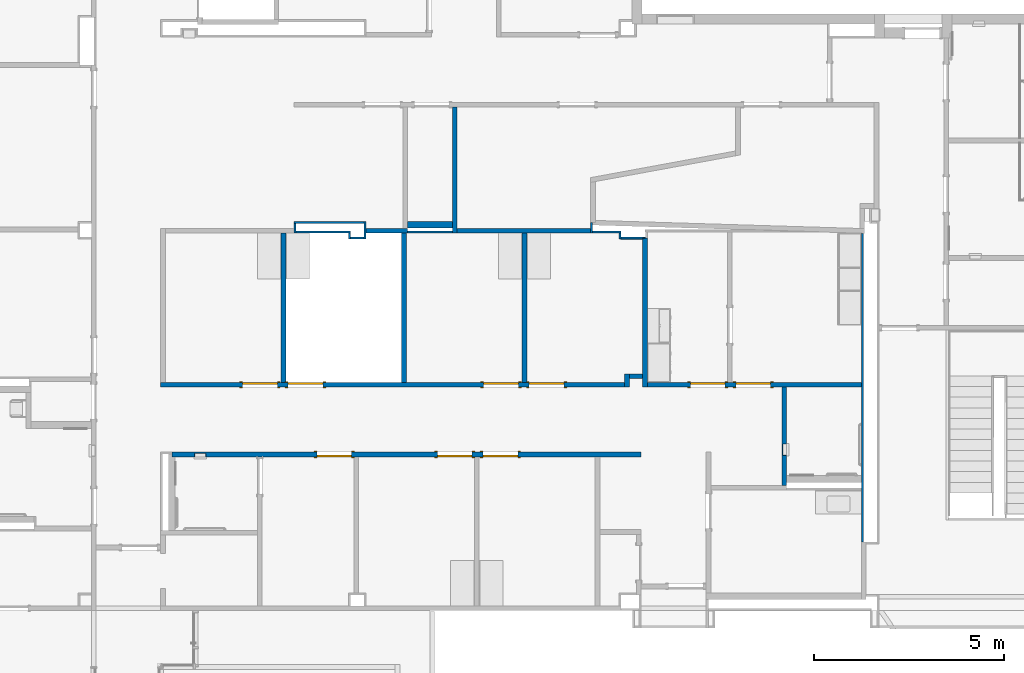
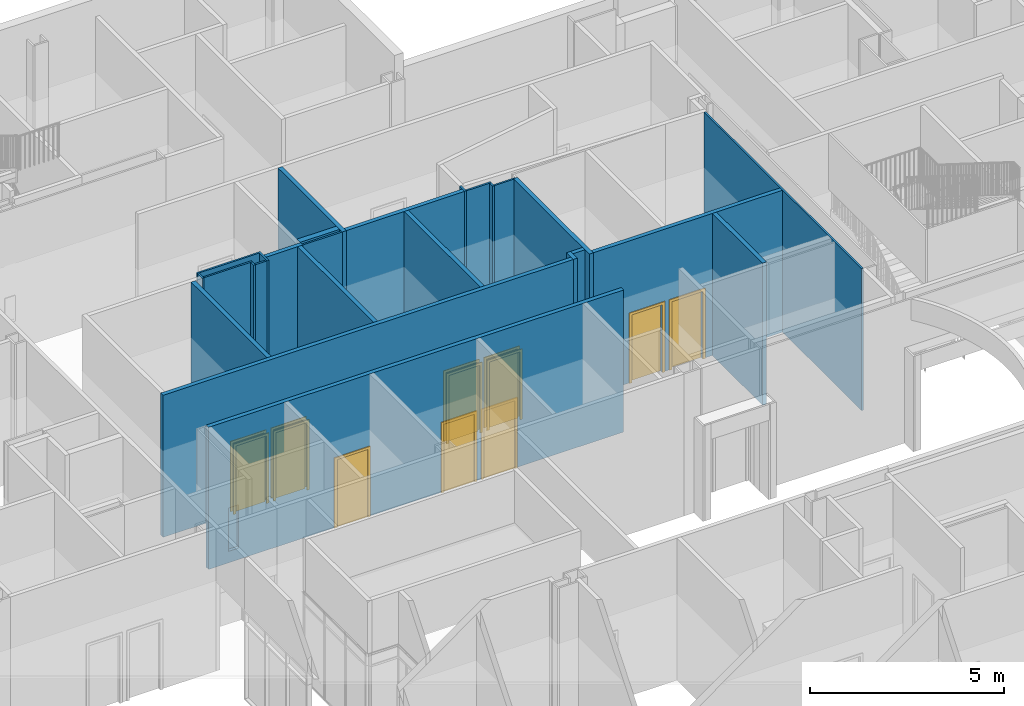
# One storey, part 33 of 87: 26 walls, 9 doors, 11 openings.
"""IFC2X3 building model written with IfcOpenShell, lengths in metres."""

from ifc_helpers import new_model, entity, si_unit, converted_unit, frame, frame_2d, origin, origin_2d_with_axis, place, context, project, spatial, polyline, rectangle, outline, extrude, source, transform, mapped, material, layer, layer_set, layer_usage, type_object, type_shapes, element, fill, save


model = new_model("IFC2X3")

# Units and contexts
model_context = context("Model", 3, precision=1e-09, world=origin())
plan_context = context("Plan", 3, precision=1e-09, world=origin())
ifc_project = project(units=[si_unit("LENGTHUNIT", "METRE"), si_unit("AREAUNIT", "SQUARE_METRE"), si_unit("VOLUMEUNIT", "CUBIC_METRE"), converted_unit("PLANEANGLEUNIT", "DEGREE", entity("IfcRatioMeasure", 0.01745329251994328), si_unit("PLANEANGLEUNIT", "RADIAN"), dimensions=[0, 0, 0, 0, 0, 0, 0]), si_unit("TIMEUNIT", "SECOND")], contexts=[model_context, plan_context])

# Site, building, storey
site_placement = place(None, origin())
site = spatial("IfcSite", under=ifc_project, at=site_placement, Name="Default", CompositionType="ELEMENT")
building_placement = place(site_placement, origin())
building = spatial("IfcBuilding", under=site, at=building_placement, CompositionType="ELEMENT")
storey_placement = place(building_placement, origin())
storey = spatial("IfcBuildingStorey", under=building, at=storey_placement, Name="First Floor", CompositionType="ELEMENT", Elevation=-3.531500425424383e-13)

# Wall, opening
ifc_material_1 = material(Name="Plasterboard")
ifc_layer_1 = layer(ifc_material_1, 0.016)
ifc_material_2 = material(Name="Metal - Stud Layer")
ifc_layer_2 = layer(ifc_material_2, 0.092)
ifc_layer_3 = layer(ifc_material_1, 0.016)
ifc_layer_set_1 = layer_set([ifc_layer_1, ifc_layer_2, ifc_layer_3], Name="Basic Wall:Interior - Partition (92mm Stud)")
ifc_layer_usage_1 = layer_usage(ifc_layer_set_1, "AXIS2", "NEGATIVE", 0.062)
wall_1_placement = place(storey_placement, frame((-22.31800000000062, 38.07399999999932, 0.0), z_axis=(0.0, 0.0, 1.0), x_axis=(0.0, 1.0, 0.0)))
wall_1 = element("IfcWallStandardCase", 1, at=wall_1_placement, inside=storey, material=ifc_layer_usage_1, Name="Basic Wall:Interior - Partition (92mm Stud)", ObjectType="Basic Wall:Interior - Partition (92mm Stud)", context=model_context, shape_type="SweptSolid", body=[
    extrude(rectangle(XDim=2.58600000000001, YDim=0.1239999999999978, at=frame_2d((1.293000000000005, 0.0), x_axis=(-1.0, 0.0))), origin(), (0.0, 0.0, 1.0), 4.46800000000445),
])
opening_1_placement = place(wall_1_placement, origin())
element("IfcOpeningElement", 2, at=opening_1_placement, cuts=wall_1, ObjectType="Opening", context=model_context, shape_type="SweptSolid", body=[
    extrude(rectangle(XDim=1.362075, YDim=0.2984499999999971, at=origin_2d_with_axis()), frame((0.9411000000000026, -0.1255000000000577, 1.041399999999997), z_axis=(0.0, 1.0, 0.0), x_axis=(0.0, 0.0, -1.0)), (0.0, 0.0, 1.0), 0.1524000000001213),
])

# Wall, openings, doors
ifc_layer_usage_2 = layer_usage(ifc_layer_set_1, "AXIS2", "NEGATIVE", 0.062)
wall_2_placement = place(storey_placement, frame((-20.2900000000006, 40.72199999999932, 0.0), z_axis=(0.0, 0.0, 1.0), x_axis=(-1.0, 0.0, 0.0)))
wall_2 = element("IfcWallStandardCase", 3, at=wall_2_placement, inside=storey, material=ifc_layer_usage_2, Name="Basic Wall:Interior - Partition (92mm Stud)", ObjectType="Basic Wall:Interior - Partition (92mm Stud)", context=model_context, shape_type="SweptSolid", body=[
    extrude(rectangle(XDim=5.626000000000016, YDim=0.1240000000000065, at=frame_2d((2.813000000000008, 0.0), x_axis=(-1.0, 0.0))), origin(), (0.0, 0.0, 1.0), 4.468000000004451),
])
opening_2_placement = place(wall_2_placement, frame((3.300000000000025, 0.06199999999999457, 0.0)))
opening_2 = element("IfcOpeningElement", 4, at=opening_2_placement, cuts=wall_2, Name="M_Single-Flush:0915 x 2134mm:0915 x 2134mm:1", ObjectType="Opening", context=model_context, shape_type="SweptSolid", body=[
    extrude(rectangle(XDim=0.9149999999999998, YDim=2.134, at=frame_2d((1.067, 0.4574999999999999), x_axis=(0.0, -1.0))), frame((0.0, 0.0, 0.0), z_axis=(0.0, -1.0, 0.0), x_axis=(0.0, 0.0, 1.0)), (0.0, 0.0, 1.0), 0.124),
])
opening_3_placement = place(wall_2_placement, frame((4.499000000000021, 0.06199999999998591, 0.0)))
opening_3 = element("IfcOpeningElement", 5, at=opening_3_placement, cuts=wall_2, Name="M_Single-Flush:0915 x 2134mm:0915 x 2134mm:1", ObjectType="Opening", context=model_context, shape_type="SweptSolid", body=[
    extrude(rectangle(XDim=0.9149999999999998, YDim=2.134, at=frame_2d((1.067, 0.4575), x_axis=(0.0, 1.0))), frame((0.0, 0.0, 0.0), z_axis=(0.0, -1.0, 0.0), x_axis=(0.0, 0.0, 1.0)), (0.0, 0.0, 1.0), 0.124),
])
door_style_1 = type_object("IfcDoorStyle", Name="0915 x 2134mm", ConstructionType="NOTDEFINED", OperationType="SINGLE_SWING_RIGHT", ParameterTakesPrecedence=False, Sizeable=False)
shared_shape_1 = source(origin(), model_context, "Body", "SweptSolid", [
    extrude(outline(polyline([(-0.5335, -1.123999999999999), (0.5334999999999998, -1.123999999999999), (0.5334999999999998, 1.086), (0.4574999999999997, 1.086), (0.4574999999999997, -1.048000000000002), (-0.4574999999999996, -1.048000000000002), (-0.4574999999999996, 1.086), (-0.5335, 1.086), (-0.5335, -1.123999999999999)])), frame((0.4575000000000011, 0.1239999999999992, 1.086), z_axis=(0.0, 1.0, 0.0), x_axis=(1.0, 0.0, 0.0)), (0.0, 0.0, 1.0), 0.02499999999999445),
    extrude(outline(polyline([(-1.123999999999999, -0.5334999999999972), (1.085999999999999, -0.5334999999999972), (1.085999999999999, -0.4575000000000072), (-1.048, -0.4575000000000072), (-1.048, 0.4575000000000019), (1.085999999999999, 0.4575000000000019), (1.085999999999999, 0.5335000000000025), (-1.123999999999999, 0.5335000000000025), (-1.123999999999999, -0.5334999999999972)])), frame((0.4575000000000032, -0.02500000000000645, 1.085999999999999), z_axis=(0.0, 1.0, 0.0), x_axis=(0.0, 0.0, -1.0)), (0.0, 0.0, 1.0), 0.02500000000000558),
    extrude(rectangle(XDim=0.051, YDim=0.9149999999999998, at=origin_2d_with_axis()), frame((0.4575000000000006, 0.09849999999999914, 0.0), z_axis=(0.0, 0.0, 1.0), x_axis=(0.0, 1.0, 0.0)), (0.0, 0.0, 1.0), 2.133999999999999),
])
type_shapes(door_style_1, [shared_shape_1])
door_1_placement = place(opening_3_placement, frame((0.0, 0.0, 0.0), z_axis=(0.0, 0.0, 1.0), x_axis=(-1.0, 0.0, 0.0)))
door_1 = element("IfcDoor", 6, at=door_1_placement, inside=storey, type_object=door_style_1, Name="M_Single-Flush:0915 x 2134mm:0915 x 2134mm", ObjectType="0915 x 2134mm", OverallHeight=2.134, OverallWidth=0.9149999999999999, context=model_context, shape_type="MappedRepresentation", body=[
    mapped(shared_shape_1, transform((0.0, 0.0, 0.0), scale=1.0)),
])
fill(opening_3, door_1)
door_style_2 = type_object("IfcDoorStyle", Name="0915 x 2134mm", ConstructionType="NOTDEFINED", OperationType="SINGLE_SWING_LEFT", ParameterTakesPrecedence=False, Sizeable=False)
shared_shape_2 = source(origin(), model_context, "Body", "SweptSolid", [
    extrude(outline(polyline([(-0.5335, -1.123999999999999), (0.5334999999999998, -1.123999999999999), (0.5334999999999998, 1.086), (0.4574999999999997, 1.086), (0.4574999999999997, -1.048000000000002), (-0.4574999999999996, -1.048000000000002), (-0.4574999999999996, 1.086), (-0.5335, 1.086), (-0.5335, -1.123999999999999)])), frame((0.4575000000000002, 0.1489999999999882, 1.086), z_axis=(0.0, -1.0, 0.0), x_axis=(-1.0, 0.0, 0.0)), (0.0, 0.0, 1.0), 0.02499999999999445),
    extrude(outline(polyline([(-1.123999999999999, -0.5334999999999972), (1.085999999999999, -0.5334999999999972), (1.085999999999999, -0.4575000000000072), (-1.048, -0.4575000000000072), (-1.048, 0.4575000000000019), (1.085999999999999, 0.4575000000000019), (1.085999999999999, 0.5335000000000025), (-1.123999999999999, 0.5335000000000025), (-1.123999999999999, -0.5334999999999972)])), frame((0.4574999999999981, 0.0, 1.085999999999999), z_axis=(0.0, -1.0, 0.0), x_axis=(0.0, 0.0, -1.0)), (0.0, 0.0, 1.0), 0.02500000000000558),
    extrude(rectangle(XDim=0.9149999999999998, YDim=0.051, at=origin_2d_with_axis()), frame((0.4575000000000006, 0.09849999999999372, 0.0)), (0.0, 0.0, 1.0), 2.133999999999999),
])
type_shapes(door_style_2, [shared_shape_2])
door_2_placement = place(opening_2_placement, frame((0.0, 0.0, 0.0), z_axis=(0.0, 0.0, 1.0), x_axis=(-1.0, 0.0, 0.0)))
door_2 = element("IfcDoor", 7, at=door_2_placement, inside=storey, type_object=door_style_2, Name="M_Single-Flush:0915 x 2134mm:0915 x 2134mm", ObjectType="0915 x 2134mm", OverallHeight=2.134, OverallWidth=0.9149999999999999, context=model_context, shape_type="MappedRepresentation", body=[
    mapped(shared_shape_2, transform((0.0, 0.0, 0.0), scale=1.0)),
])
fill(opening_2, door_2)

# Walls
ifc_layer_usage_3 = layer_usage(ifc_layer_set_1, "AXIS2", "NEGATIVE", 0.062)
wall_3_placement = place(storey_placement, frame((-35.48800000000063, 40.78399999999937, 0.0), z_axis=(0.0, 0.0, 1.0), x_axis=(0.0, 1.0, 0.0)))
element("IfcWallStandardCase", 8, at=wall_3_placement, inside=storey, material=ifc_layer_usage_3, Name="Basic Wall:Interior - Partition (92mm Stud)", ObjectType="Basic Wall:Interior - Partition (92mm Stud)", context=model_context, shape_type="SweptSolid", body=[
    extrude(rectangle(XDim=3.921999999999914, YDim=0.1239999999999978, at=frame_2d((1.960999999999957, 0.0), x_axis=(-1.0, 0.0))), origin(), (0.0, 0.0, 1.0), 4.46800000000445),
])
ifc_layer_usage_4 = layer_usage(ifc_layer_set_1, "AXIS2", "NEGATIVE", 0.062)
wall_4_placement = place(storey_placement, frame((-32.31800000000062, 40.78399999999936, 0.0), z_axis=(0.0, 0.0, 1.0), x_axis=(0.0, 1.0, 0.0)))
element("IfcWallStandardCase", 9, at=wall_4_placement, inside=storey, material=ifc_layer_usage_4, Name="Basic Wall:Interior - Partition (92mm Stud)", ObjectType="Basic Wall:Interior - Partition (92mm Stud)", context=model_context, shape_type="SweptSolid", body=[
    extrude(rectangle(XDim=3.921999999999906, YDim=0.1239999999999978, at=frame_2d((1.960999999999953, 0.0), x_axis=(-1.0, 0.0))), origin(), (0.0, 0.0, 1.0), 4.46800000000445),
])
ifc_layer_usage_5 = layer_usage(ifc_layer_set_1, "AXIS2", "NEGATIVE", 0.062)
wall_5_placement = place(storey_placement, frame((-33.32000000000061, 44.76799999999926, 0.0)))
element("IfcWallStandardCase", 10, at=wall_5_placement, inside=storey, material=ifc_layer_usage_5, Name="Basic Wall:Interior - Partition (92mm Stud)", ObjectType="Basic Wall:Interior - Partition (92mm Stud)", context=model_context, shape_type="SweptSolid", body=[
    extrude(rectangle(XDim=1.094999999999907, YDim=0.1240000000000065, at=frame_2d((0.5474999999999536, 0.0), x_axis=(-1.0, 0.0))), origin(), (0.0, 0.0, 1.0), 4.468000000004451),
])
ifc_layer_usage_6 = layer_usage(ifc_layer_set_1, "AXIS2", "NEGATIVE", 0.062)
wall_6_placement = place(storey_placement, frame((-29.14800000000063, 40.78399999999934, 0.0), z_axis=(0.0, 0.0, 1.0), x_axis=(0.0, 1.0, 0.0)))
element("IfcWallStandardCase", 11, at=wall_6_placement, inside=storey, material=ifc_layer_usage_6, Name="Basic Wall:Interior - Partition (92mm Stud)", ObjectType="Basic Wall:Interior - Partition (92mm Stud)", context=model_context, shape_type="SweptSolid", body=[
    extrude(rectangle(XDim=3.921999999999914, YDim=0.1239999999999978, at=frame_2d((1.960999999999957, 0.0), x_axis=(-1.0, 0.0))), origin(), (0.0, 0.0, 1.0), 4.46800000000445),
])

# Wall, openings, doors
ifc_layer_usage_7 = layer_usage(ifc_layer_set_1, "AXIS2", "NEGATIVE", 0.062)
wall_7_placement = place(storey_placement, frame((-26.51400084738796, 40.72199999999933, 0.0), z_axis=(0.0, 0.0, 1.0), x_axis=(-1.0, 0.0, 0.0)))
wall_7 = element("IfcWallStandardCase", 12, at=wall_7_placement, inside=storey, material=ifc_layer_usage_7, Name="Basic Wall:Interior - Partition (92mm Stud)", ObjectType="Basic Wall:Interior - Partition (92mm Stud)", context=model_context, shape_type="SweptSolid", body=[
    extrude(rectangle(XDim=12.20599915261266, YDim=0.1240000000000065, at=frame_2d((6.102999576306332, 0.0), x_axis=(-1.0, 0.0))), origin(), (0.0, 0.0, 1.0), 4.46800000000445),
])
opening_4_placement = place(wall_7_placement, frame((2.511999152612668, 0.06199999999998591, 0.0)))
opening_4 = element("IfcOpeningElement", 13, at=opening_4_placement, cuts=wall_7, Name="M_Single-Flush:0915 x 2134mm:0915 x 2134mm:1", ObjectType="Opening", context=model_context, shape_type="SweptSolid", body=[
    extrude(rectangle(XDim=0.9149999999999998, YDim=2.134, at=frame_2d((1.067, 0.4574999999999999), x_axis=(0.0, -1.0))), frame((0.0, 0.0, 0.0), z_axis=(0.0, -1.0, 0.0), x_axis=(0.0, 0.0, 1.0)), (0.0, 0.0, 1.0), 0.124),
])
opening_5_placement = place(wall_7_placement, frame((3.710999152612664, 0.06199999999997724, 0.0)))
opening_5 = element("IfcOpeningElement", 14, at=opening_5_placement, cuts=wall_7, Name="M_Single-Flush:0915 x 2134mm:0915 x 2134mm:1", ObjectType="Opening", context=model_context, shape_type="SweptSolid", body=[
    extrude(rectangle(XDim=0.9149999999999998, YDim=2.134, at=frame_2d((1.067, 0.4575), x_axis=(0.0, 1.0))), frame((0.0, 0.0, 0.0), z_axis=(0.0, -1.0, 0.0), x_axis=(0.0, 0.0, 1.0)), (0.0, 0.0, 1.0), 0.124),
])
opening_6_placement = place(wall_7_placement, frame((10.05099915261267, 0.06199999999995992, 0.0)))
opening_6 = element("IfcOpeningElement", 15, at=opening_6_placement, cuts=wall_7, Name="M_Single-Flush:0915 x 2134mm:0915 x 2134mm:1", ObjectType="Opening", context=model_context, shape_type="SweptSolid", body=[
    extrude(rectangle(XDim=0.9149999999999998, YDim=2.134, at=frame_2d((1.067, 0.4575), x_axis=(0.0, 1.0))), frame((0.0, 0.0, 0.0), z_axis=(0.0, -1.0, 0.0), x_axis=(0.0, 0.0, 1.0)), (0.0, 0.0, 1.0), 0.124),
])
opening_7_placement = place(wall_7_placement, frame((8.851999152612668, 0.06199999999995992, 0.0)))
opening_7 = element("IfcOpeningElement", 16, at=opening_7_placement, cuts=wall_7, Name="M_Single-Flush:0915 x 2134mm:0915 x 2134mm:1", ObjectType="Opening", context=model_context, shape_type="SweptSolid", body=[
    extrude(rectangle(XDim=0.9149999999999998, YDim=2.134, at=frame_2d((1.067, 0.4574999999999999), x_axis=(0.0, -1.0))), frame((0.0, 0.0, 0.0), z_axis=(0.0, -1.0, 0.0), x_axis=(0.0, 0.0, 1.0)), (0.0, 0.0, 1.0), 0.124),
])
door_3_placement = place(opening_5_placement, frame((0.0, 0.0, 0.0), z_axis=(0.0, 0.0, 1.0), x_axis=(-1.0, 0.0, 0.0)))
door_3 = element("IfcDoor", 17, at=door_3_placement, inside=storey, type_object=door_style_1, Name="M_Single-Flush:0915 x 2134mm:0915 x 2134mm", ObjectType="0915 x 2134mm", OverallHeight=2.134, OverallWidth=0.9149999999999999, context=model_context, shape_type="MappedRepresentation", body=[
    mapped(shared_shape_1, transform((0.0, 0.0, 0.0), scale=1.0)),
])
fill(opening_5, door_3)
door_4_placement = place(opening_6_placement, frame((0.0, 0.0, 0.0), z_axis=(0.0, 0.0, 1.0), x_axis=(-1.0, 0.0, 0.0)))
door_4 = element("IfcDoor", 18, at=door_4_placement, inside=storey, type_object=door_style_1, Name="M_Single-Flush:0915 x 2134mm:0915 x 2134mm", ObjectType="0915 x 2134mm", OverallHeight=2.134, OverallWidth=0.9149999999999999, context=model_context, shape_type="MappedRepresentation", body=[
    mapped(shared_shape_1, transform((0.0, 0.0, 0.0), scale=1.0)),
])
fill(opening_6, door_4)
door_5_placement = place(opening_4_placement, frame((0.0, 0.0, 0.0), z_axis=(0.0, 0.0, 1.0), x_axis=(-1.0, 0.0, 0.0)))
door_5 = element("IfcDoor", 19, at=door_5_placement, inside=storey, type_object=door_style_2, Name="M_Single-Flush:0915 x 2134mm:0915 x 2134mm", ObjectType="0915 x 2134mm", OverallHeight=2.134, OverallWidth=0.9149999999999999, context=model_context, shape_type="MappedRepresentation", body=[
    mapped(shared_shape_2, transform((0.0, 0.0, 0.0), scale=1.0)),
])
fill(opening_4, door_5)
door_6_placement = place(opening_7_placement, frame((0.0, 0.0, 0.0), z_axis=(0.0, 0.0, 1.0), x_axis=(-1.0, 0.0, 0.0)))
door_6 = element("IfcDoor", 20, at=door_6_placement, inside=storey, type_object=door_style_2, Name="M_Single-Flush:0915 x 2134mm:0915 x 2134mm", ObjectType="0915 x 2134mm", OverallHeight=2.134, OverallWidth=0.9149999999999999, context=model_context, shape_type="MappedRepresentation", body=[
    mapped(shared_shape_2, transform((0.0, 0.0, 0.0), scale=1.0)),
])
fill(opening_7, door_6)

# Walls
ifc_layer_usage_8 = layer_usage(ifc_layer_set_1, "AXIS2", "NEGATIVE", 0.062)
wall_8_placement = place(storey_placement, frame((-25.97800000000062, 40.65999999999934, 0.0), z_axis=(0.0, 0.0, 1.0), x_axis=(0.0, 1.0, 0.0)))
element("IfcWallStandardCase", 21, at=wall_8_placement, inside=storey, material=ifc_layer_usage_8, Name="Basic Wall:Interior - Partition (92mm Stud)", ObjectType="Basic Wall:Interior - Partition (92mm Stud)", context=model_context, shape_type="SweptSolid", body=[
    extrude(rectangle(XDim=3.916999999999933, YDim=0.1239999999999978, at=frame_2d((1.958499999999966, 0.0), x_axis=(-1.0, 0.0))), origin(), (0.0, 0.0, 1.0), 4.46800000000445),
])
ifc_layer_usage_9 = layer_usage(ifc_layer_set_1, "AXIS2", "NEGATIVE", 0.062)
wall_9_placement = place(storey_placement, frame((-26.04000000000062, 40.94699955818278, 0.0), z_axis=(0.0, 0.0, 1.0), x_axis=(-1.0, 0.0, 0.0)))
element("IfcWallStandardCase", 22, at=wall_9_placement, inside=storey, material=ifc_layer_usage_9, Name="Basic Wall:Interior - Partition (92mm Stud)", ObjectType="Basic Wall:Interior - Partition (92mm Stud)", context=model_context, shape_type="SweptSolid", body=[
    extrude(rectangle(XDim=0.3500008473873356, YDim=0.1240000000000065, at=frame_2d((0.1750004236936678, 0.0), x_axis=(-1.0, 0.0))), origin(), (0.0, 0.0, 1.0), 4.46800000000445),
])
ifc_layer_usage_10 = layer_usage(ifc_layer_set_1, "AXIS2", "NEGATIVE", 0.062)
wall_10_placement = place(storey_placement, frame((-26.45200084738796, 41.00899955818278, 0.0), z_axis=(0.0, 0.0, 1.0), x_axis=(0.0, -1.0, 0.0)))
element("IfcWallStandardCase", 23, at=wall_10_placement, inside=storey, material=ifc_layer_usage_10, Name="Basic Wall:Interior - Partition (92mm Stud)", ObjectType="Basic Wall:Interior - Partition (92mm Stud)", context=model_context, shape_type="SweptSolid", body=[
    extrude(rectangle(XDim=0.3489995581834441, YDim=0.1239999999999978, at=frame_2d((0.1744997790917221, 0.0), x_axis=(-1.0, 0.0))), origin(), (0.0, 0.0, 1.0), 4.468000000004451),
])

# Wall, openings, doors
ifc_layer_usage_11 = layer_usage(ifc_layer_set_1, "AXIS2", "NEGATIVE", 0.062)
wall_11_placement = place(storey_placement, frame((-38.42400000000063, 38.88799999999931, 0.0)))
wall_11 = element("IfcWallStandardCase", 24, at=wall_11_placement, inside=storey, material=ifc_layer_usage_11, Name="Basic Wall:Interior - Partition (92mm Stud)", ObjectType="Basic Wall:Interior - Partition (92mm Stud)", context=model_context, shape_type="SweptSolid", body=[
    extrude(rectangle(XDim=12.344, YDim=0.1239999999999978, at=frame_2d((6.172000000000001, 0.0), x_axis=(-1.0, 0.0))), origin(), (0.0, 0.0, 1.0), 4.46800000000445),
])
opening_8_placement = place(wall_11_placement, origin())
element("IfcOpeningElement", 25, at=opening_8_placement, cuts=wall_11, ObjectType="Opening", context=model_context, shape_type="SweptSolid", body=[
    extrude(rectangle(XDim=1.362075, YDim=0.2984500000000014, at=origin_2d_with_axis()), frame((0.7491000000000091, -0.1255000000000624, 1.041399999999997), z_axis=(0.0, 1.0, 0.0), x_axis=(0.0, 0.0, -1.0)), (0.0, 0.0, 1.0), 0.1524000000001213),
])
opening_9_placement = place(wall_11_placement, frame((4.729999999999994, 0.06199999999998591, 0.0)))
opening_9 = element("IfcOpeningElement", 26, at=opening_9_placement, cuts=wall_11, Name="M_Single-Flush:0915 x 2134mm:0915 x 2134mm:1", ObjectType="Opening", context=model_context, shape_type="SweptSolid", body=[
    extrude(rectangle(XDim=0.9149999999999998, YDim=2.134, at=frame_2d((1.067, 0.4574999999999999), x_axis=(0.0, -1.0))), frame((0.0, 0.0, 0.0), z_axis=(0.0, -1.0, 0.0), x_axis=(0.0, 0.0, 1.0)), (0.0, 0.0, 1.0), 0.124),
])
opening_10_placement = place(wall_11_placement, frame((7.899999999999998, 0.06199999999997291, 0.0)))
opening_10 = element("IfcOpeningElement", 27, at=opening_10_placement, cuts=wall_11, Name="M_Single-Flush:0915 x 2134mm:0915 x 2134mm:1", ObjectType="Opening", context=model_context, shape_type="SweptSolid", body=[
    extrude(rectangle(XDim=0.9149999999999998, YDim=2.134, at=frame_2d((1.067, 0.4574999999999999), x_axis=(0.0, -1.0))), frame((0.0, 0.0, 0.0), z_axis=(0.0, -1.0, 0.0), x_axis=(0.0, 0.0, 1.0)), (0.0, 0.0, 1.0), 0.124),
])
opening_11_placement = place(wall_11_placement, frame((9.099000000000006, 0.06199999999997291, 0.0)))
opening_11 = element("IfcOpeningElement", 28, at=opening_11_placement, cuts=wall_11, Name="M_Single-Flush:0915 x 2134mm:0915 x 2134mm:1", ObjectType="Opening", context=model_context, shape_type="SweptSolid", body=[
    extrude(rectangle(XDim=0.9149999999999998, YDim=2.134, at=frame_2d((1.067, 0.4575), x_axis=(0.0, 1.0))), frame((0.0, 0.0, 0.0), z_axis=(0.0, -1.0, 0.0), x_axis=(0.0, 0.0, 1.0)), (0.0, 0.0, 1.0), 0.124),
])
door_7_placement = place(opening_11_placement, frame((0.0, 0.0, 0.0), z_axis=(0.0, 0.0, 1.0), x_axis=(-1.0, 0.0, 0.0)))
door_7 = element("IfcDoor", 29, at=door_7_placement, inside=storey, type_object=door_style_1, Name="M_Single-Flush:0915 x 2134mm:0915 x 2134mm", ObjectType="0915 x 2134mm", OverallHeight=2.134, OverallWidth=0.9149999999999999, context=model_context, shape_type="MappedRepresentation", body=[
    mapped(shared_shape_1, transform((0.0, 0.0, 0.0), scale=1.0)),
])
fill(opening_11, door_7)
door_8_placement = place(opening_9_placement, frame((0.0, 0.0, 0.0), z_axis=(0.0, 0.0, 1.0), x_axis=(-1.0, 0.0, 0.0)))
door_8 = element("IfcDoor", 30, at=door_8_placement, inside=storey, type_object=door_style_2, Name="M_Single-Flush:0915 x 2134mm:0915 x 2134mm", ObjectType="0915 x 2134mm", OverallHeight=2.134, OverallWidth=0.9149999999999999, context=model_context, shape_type="MappedRepresentation", body=[
    mapped(shared_shape_2, transform((0.0, 0.0, 0.0), scale=1.0)),
])
fill(opening_9, door_8)
door_9_placement = place(opening_10_placement, frame((0.0, 0.0, 0.0), z_axis=(0.0, 0.0, 1.0), x_axis=(-1.0, 0.0, 0.0)))
door_9 = element("IfcDoor", 31, at=door_9_placement, inside=storey, type_object=door_style_2, Name="M_Single-Flush:0915 x 2134mm:0915 x 2134mm", ObjectType="0915 x 2134mm", OverallHeight=2.134, OverallWidth=0.9149999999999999, context=model_context, shape_type="MappedRepresentation", body=[
    mapped(shared_shape_2, transform((0.0, 0.0, 0.0), scale=1.0)),
])
fill(opening_10, door_9)

# Walls
ifc_layer_usage_12 = layer_usage(ifc_layer_set_1, "AXIS2", "NEGATIVE", 0.062)
wall_12_placement = place(storey_placement, frame((-30.98700000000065, 48.02599999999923, 0.0), z_axis=(0.0, 0.0, 1.0), x_axis=(0.0, -1.0, 0.0)))
element("IfcWallStandardCase", 32, at=wall_12_placement, inside=storey, material=ifc_layer_usage_12, Name="Basic Wall:Interior - Partition (92mm Stud)", ObjectType="Basic Wall:Interior - Partition (92mm Stud)", context=model_context, shape_type="SweptSolid", body=[
    extrude(rectangle(XDim=3.319999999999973, YDim=0.1239999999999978, at=frame_2d((1.659999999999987, 0.0), x_axis=(-1.0, 0.0))), origin(), (0.0, 0.0, 1.0), 4.468000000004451),
])
ifc_layer_4 = layer(ifc_material_2, 0.152)
ifc_layer_5 = layer(ifc_material_1, 0.016)
ifc_layer_set_2 = layer_set([ifc_layer_4, ifc_layer_5], Name="Basic Wall:Interior - Furring (152 mm Stud)")
ifc_layer_usage_13 = layer_usage(ifc_layer_set_2, "AXIS2", "POSITIVE", -0.08399999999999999)
wall_13_placement = place(storey_placement, frame((-32.22500000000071, 44.92599999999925, 0.0)))
element("IfcWallStandardCase", 33, at=wall_13_placement, inside=storey, material=ifc_layer_usage_13, Name="Basic Wall:Interior - Furring (152 mm Stud)", ObjectType="Basic Wall:Interior - Furring (152 mm Stud)", context=model_context, shape_type="SweptSolid", body=[
    extrude(rectangle(XDim=1.176000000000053, YDim=0.1679999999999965, at=frame_2d((0.5880000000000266, 0.0), x_axis=(-1.0, 0.0))), origin(), (0.0, 0.0, 1.0), 4.46800000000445),
])
ifc_layer_6 = layer(ifc_material_2, 0.038)
ifc_layer_7 = layer(ifc_material_1, 0.016)
ifc_layer_set_3 = layer_set([ifc_layer_6, ifc_layer_7], Name="Basic Wall:Interior - Furring (38 mm Stud)")
ifc_layer_usage_14 = layer_usage(ifc_layer_set_3, "AXIS2", "NEGATIVE", 0.027)
wall_14_placement = place(storey_placement, frame((-20.26300000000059, 44.70594269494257, 0.0), z_axis=(0.0, 0.0, 1.0), x_axis=(0.0, -1.0, 0.0)))
element("IfcWallStandardCase", 34, at=wall_14_placement, inside=storey, material=ifc_layer_usage_14, Name="Basic Wall:Interior - Furring (38 mm Stud)", ObjectType="Basic Wall:Interior - Furring (38 mm Stud)", context=model_context, shape_type="SweptSolid", body=[
    extrude(outline(polyline([(8.116942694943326, -0.02700000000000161), (8.116942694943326, 0.02699999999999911), (0.001641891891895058, 0.0269999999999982), (0.0, -0.02700000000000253), (3.921942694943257, -0.02700000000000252), (4.045942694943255, -0.02700000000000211), (6.375942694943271, -0.02700000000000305), (6.559942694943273, -0.02700000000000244), (6.701942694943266, -0.02700000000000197), (6.755942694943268, -0.02700000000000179), (8.116942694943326, -0.02700000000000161)])), origin(), (0.0, 0.0, 1.0), 4.46800000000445),
])
ifc_layer_usage_15 = layer_usage(ifc_layer_set_3, "AXIS2", "NEGATIVE", 0.027)
wall_15_placement = place(storey_placement, frame((-27.38200000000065, 44.98360648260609, 0.0), z_axis=(0.0, 0.0, 1.0), x_axis=(0.0, -1.0, 0.0)))
element("IfcWallStandardCase", 35, at=wall_15_placement, inside=storey, material=ifc_layer_usage_15, Name="Basic Wall:Interior - Furring (38 mm Stud)", ObjectType="Basic Wall:Interior - Furring (38 mm Stud)", context=model_context, shape_type="SweptSolid", body=[
    extrude(rectangle(XDim=0.277606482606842, YDim=0.05399999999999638, at=frame_2d((0.138803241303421, 0.0), x_axis=(-1.0, 0.0))), origin(), (0.0, 0.0, 1.0), 4.468000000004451),
])
ifc_layer_usage_16 = layer_usage(ifc_layer_set_3, "AXIS2", "NEGATIVE", 0.027)
wall_16_placement = place(storey_placement, frame((-27.35500000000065, 44.73299999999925, 0.0)))
element("IfcWallStandardCase", 36, at=wall_16_placement, inside=storey, material=ifc_layer_usage_16, Name="Basic Wall:Interior - Furring (38 mm Stud)", ObjectType="Basic Wall:Interior - Furring (38 mm Stud)", context=model_context, shape_type="SweptSolid", body=[
    extrude(rectangle(XDim=0.7390000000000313, YDim=0.05400000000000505, at=frame_2d((0.3695000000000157, 0.0), x_axis=(-1.0, 0.0))), origin(), (0.0, 0.0, 1.0), 4.46800000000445),
])
ifc_layer_usage_17 = layer_usage(ifc_layer_set_3, "AXIS2", "NEGATIVE", 0.027)
wall_17_placement = place(storey_placement, frame((-26.64300000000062, 44.70599999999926, 0.0), z_axis=(0.0, 0.0, 1.0), x_axis=(0.0, -1.0, 0.0)))
element("IfcWallStandardCase", 37, at=wall_17_placement, inside=storey, material=ifc_layer_usage_17, Name="Basic Wall:Interior - Furring (38 mm Stud)", ObjectType="Basic Wall:Interior - Furring (38 mm Stud)", context=model_context, shape_type="SweptSolid", body=[
    extrude(rectangle(XDim=0.1559999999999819, YDim=0.05399999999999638, at=frame_2d((0.07799999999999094, 0.0), x_axis=(-1.0, 0.0))), origin(), (0.0, 0.0, 1.0), 4.46800000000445),
])
ifc_layer_usage_18 = layer_usage(ifc_layer_set_3, "AXIS2", "NEGATIVE", 0.027)
wall_18_placement = place(storey_placement, frame((-26.61600000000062, 44.57699999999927, 0.0)))
element("IfcWallStandardCase", 38, at=wall_18_placement, inside=storey, material=ifc_layer_usage_18, Name="Basic Wall:Interior - Furring (38 mm Stud)", ObjectType="Basic Wall:Interior - Furring (38 mm Stud)", context=model_context, shape_type="SweptSolid", body=[
    extrude(outline(polyline([(0.575999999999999, -0.02699999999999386), (0.575999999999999, 0.0), (0.6460000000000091, 0.0), (0.6460000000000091, 0.02700000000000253), (0.0, 0.02700000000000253), (0.0, -0.02699999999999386), (0.575999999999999, -0.02699999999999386)])), origin(), (0.0, 0.0, 1.0), 4.468000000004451),
])
ifc_layer_usage_19 = layer_usage(ifc_layer_set_3, "AXIS2", "NEGATIVE", 0.027)
wall_19_placement = place(storey_placement, frame((-33.34700000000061, 44.54999999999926, 0.0), z_axis=(0.0, 0.0, 1.0), x_axis=(0.0, 1.0, 0.0)))
element("IfcWallStandardCase", 39, at=wall_19_placement, inside=storey, material=ifc_layer_usage_19, Name="Basic Wall:Interior - Furring (38 mm Stud)", ObjectType="Basic Wall:Interior - Furring (38 mm Stud)", context=model_context, shape_type="SweptSolid", body=[
    extrude(rectangle(XDim=0.459999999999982, YDim=0.05399999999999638, at=frame_2d((0.229999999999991, 0.0), x_axis=(-1.0, 0.0))), origin(), (0.0, 0.0, 1.0), 4.468000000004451),
])
ifc_layer_usage_20 = layer_usage(ifc_layer_set_3, "AXIS2", "NEGATIVE", 0.027)
wall_20_placement = place(storey_placement, frame((-33.37400000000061, 44.98299999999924, 0.0), z_axis=(0.0, 0.0, 1.0), x_axis=(-1.0, 0.0, 0.0)))
element("IfcWallStandardCase", 40, at=wall_20_placement, inside=storey, material=ifc_layer_usage_20, Name="Basic Wall:Interior - Furring (38 mm Stud)", ObjectType="Basic Wall:Interior - Furring (38 mm Stud)", context=model_context, shape_type="SweptSolid", body=[
    extrude(rectangle(XDim=1.841000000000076, YDim=0.05400000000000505, at=frame_2d((0.9205000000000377, 0.0), x_axis=(-1.0, 0.0))), origin(), (0.0, 0.0, 1.0), 4.46800000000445),
])
ifc_layer_usage_21 = layer_usage(ifc_layer_set_3, "AXIS2", "NEGATIVE", 0.027)
wall_21_placement = place(storey_placement, frame((-35.18800000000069, 44.95599999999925, 0.0), z_axis=(0.0, 0.0, 1.0), x_axis=(0.0, -1.0, 0.0)))
element("IfcWallStandardCase", 41, at=wall_21_placement, inside=storey, material=ifc_layer_usage_21, Name="Basic Wall:Interior - Furring (38 mm Stud)", ObjectType="Basic Wall:Interior - Furring (38 mm Stud)", context=model_context, shape_type="SweptSolid", body=[
    extrude(rectangle(XDim=0.2499999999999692, YDim=0.05399999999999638, at=frame_2d((0.1249999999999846, 0.0), x_axis=(-1.0, 0.0))), origin(), (0.0, 0.0, 1.0), 4.46800000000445),
])
ifc_layer_usage_22 = layer_usage(ifc_layer_set_3, "AXIS2", "NEGATIVE", 0.027)
wall_22_placement = place(storey_placement, frame((-35.16100000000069, 44.73299999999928, 0.0)))
element("IfcWallStandardCase", 42, at=wall_22_placement, inside=storey, material=ifc_layer_usage_22, Name="Basic Wall:Interior - Furring (38 mm Stud)", ObjectType="Basic Wall:Interior - Furring (38 mm Stud)", context=model_context, shape_type="SweptSolid", body=[
    extrude(rectangle(XDim=1.435000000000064, YDim=0.05400000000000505, at=frame_2d((0.7175000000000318, 0.0), x_axis=(-1.0, 0.0))), origin(), (0.0, 0.0, 1.0), 4.46800000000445),
])
ifc_layer_usage_23 = layer_usage(ifc_layer_set_3, "AXIS2", "NEGATIVE", 0.027)
wall_23_placement = place(storey_placement, frame((-33.75300000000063, 44.70599999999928, 0.0), z_axis=(0.0, 0.0, 1.0), x_axis=(0.0, -1.0, 0.0)))
element("IfcWallStandardCase", 43, at=wall_23_placement, inside=storey, material=ifc_layer_usage_23, Name="Basic Wall:Interior - Furring (38 mm Stud)", ObjectType="Basic Wall:Interior - Furring (38 mm Stud)", context=model_context, shape_type="SweptSolid", body=[
    extrude(rectangle(XDim=0.1560000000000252, YDim=0.05399999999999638, at=frame_2d((0.07800000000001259, 0.0), x_axis=(-1.0, 0.0))), origin(), (0.0, 0.0, 1.0), 4.46800000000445),
])
ifc_layer_usage_24 = layer_usage(ifc_layer_set_3, "AXIS2", "NEGATIVE", 0.027)
wall_24_placement = place(storey_placement, frame((-33.72600000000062, 44.57699999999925, 0.0)))
element("IfcWallStandardCase", 44, at=wall_24_placement, inside=storey, material=ifc_layer_usage_24, Name="Basic Wall:Interior - Furring (38 mm Stud)", ObjectType="Basic Wall:Interior - Furring (38 mm Stud)", context=model_context, shape_type="SweptSolid", body=[
    extrude(rectangle(XDim=0.352000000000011, YDim=0.05400000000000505, at=frame_2d((0.1760000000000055, 0.0), x_axis=(-1.0, 0.0))), origin(), (0.0, 0.0, 1.0), 4.46800000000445),
])
ifc_layer_usage_25 = layer_usage(ifc_layer_set_1, "AXIS2", "NEGATIVE", 0.062)
wall_25_placement = place(storey_placement, frame((-30.92500000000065, 44.76799999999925, 0.0)))
element("IfcWallStandardCase", 45, at=wall_25_placement, inside=storey, material=ifc_layer_usage_25, Name="Basic Wall:Interior - Partition (92mm Stud)", ObjectType="Basic Wall:Interior - Partition (92mm Stud)", context=model_context, shape_type="SweptSolid", body=[
    extrude(rectangle(XDim=3.515999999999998, YDim=0.1240000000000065, at=frame_2d((1.757999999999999, 0.0), x_axis=(-1.0, 0.0))), origin(), (0.0, 0.0, 1.0), 4.46800000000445),
])
ifc_layer_usage_26 = layer_usage(ifc_layer_set_3, "AXIS2", "POSITIVE", -0.027)
wall_26_placement = place(storey_placement, frame((-31.04900000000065, 44.73299999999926, 0.0), z_axis=(0.0, 0.0, 1.0), x_axis=(-1.0, 0.0, 0.0)))
element("IfcWallStandardCase", 46, at=wall_26_placement, inside=storey, material=ifc_layer_usage_26, Name="Basic Wall:Interior - Furring (38 mm Stud)", ObjectType="Basic Wall:Interior - Furring (38 mm Stud)", context=model_context, shape_type="SweptSolid", body=[
    extrude(rectangle(XDim=1.176000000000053, YDim=0.05400000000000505, at=frame_2d((0.5880000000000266, 0.0), x_axis=(-1.0, 0.0))), origin(), (0.0, 0.0, 1.0), 4.46800000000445),
])

save(model, "model.ifc")
